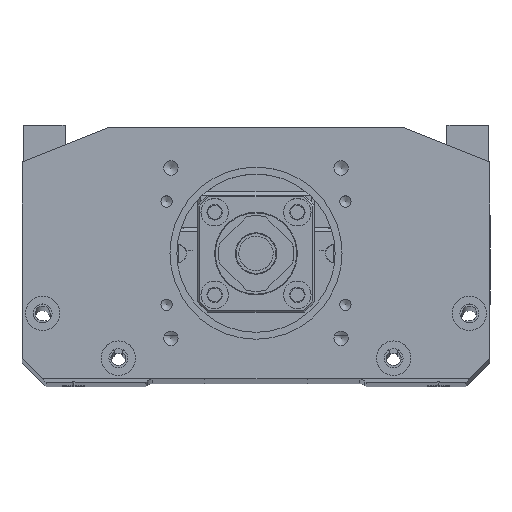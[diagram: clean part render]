
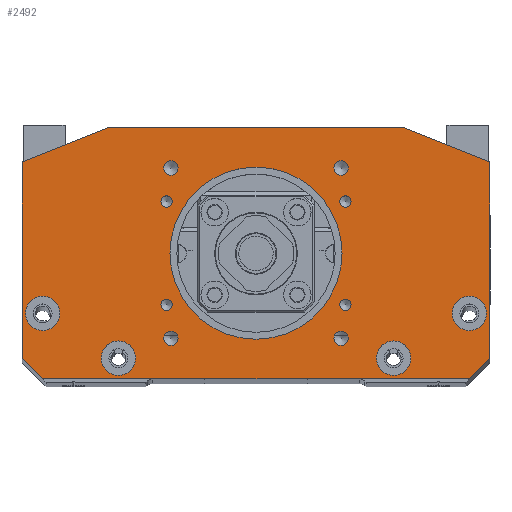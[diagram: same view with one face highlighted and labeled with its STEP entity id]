
A CAD part, top view. The second image highlights one B-rep face of the part: STEP entity #2492.
In plain terms, the highlighted planar face has unit normal (0, 0, 1).
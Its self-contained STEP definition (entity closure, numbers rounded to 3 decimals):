
#422=PLANE('',#15078);
#867=FACE_BOUND('',#4331,.T.);
#868=FACE_BOUND('',#4332,.T.);
#869=FACE_BOUND('',#4333,.T.);
#870=FACE_BOUND('',#4334,.T.);
#871=FACE_BOUND('',#4335,.T.);
#872=FACE_BOUND('',#4336,.T.);
#873=FACE_BOUND('',#4337,.T.);
#874=FACE_BOUND('',#4338,.T.);
#875=FACE_BOUND('',#4339,.T.);
#876=FACE_BOUND('',#4340,.T.);
#877=FACE_BOUND('',#4341,.T.);
#878=FACE_BOUND('',#4342,.T.);
#879=FACE_BOUND('',#4343,.T.);
#880=FACE_BOUND('',#4344,.T.);
#1786=CIRCLE('',#15065,1.65);
#1787=CIRCLE('',#15066,1.65);
#1788=CIRCLE('',#15067,1.65);
#1789=CIRCLE('',#15068,1.65);
#1790=CIRCLE('',#15069,2.1);
#1791=CIRCLE('',#15070,2.1);
#1792=CIRCLE('',#15071,2.1);
#1793=CIRCLE('',#15072,2.1);
#1794=CIRCLE('',#15073,25.);
#1795=CIRCLE('',#15074,5.);
#1796=CIRCLE('',#15075,5.);
#1797=CIRCLE('',#15076,5.);
#1798=CIRCLE('',#15077,5.);
#2492=ADVANCED_FACE('9',(#867,#868,#869,#870,#871,#872,#873,#874,#875,#876,
#877,#878,#879,#880),#422,.T.);
#4331=EDGE_LOOP('',(#7149));
#4332=EDGE_LOOP('',(#7150));
#4333=EDGE_LOOP('',(#7151));
#4334=EDGE_LOOP('',(#7152));
#4335=EDGE_LOOP('',(#7153));
#4336=EDGE_LOOP('',(#7154));
#4337=EDGE_LOOP('',(#7155));
#4338=EDGE_LOOP('',(#7156));
#4339=EDGE_LOOP('',(#7157));
#4340=EDGE_LOOP('',(#7158));
#4341=EDGE_LOOP('',(#7159));
#4342=EDGE_LOOP('',(#7160));
#4343=EDGE_LOOP('',(#7161));
#4344=EDGE_LOOP('',(#7162,#7163,#7164,#7165,#7166,#7167,#7168,#7169));
#7149=ORIENTED_EDGE('',*,*,#11610,.F.);
#7150=ORIENTED_EDGE('',*,*,#11611,.F.);
#7151=ORIENTED_EDGE('',*,*,#11612,.F.);
#7152=ORIENTED_EDGE('',*,*,#11613,.F.);
#7153=ORIENTED_EDGE('',*,*,#11614,.F.);
#7154=ORIENTED_EDGE('',*,*,#11615,.F.);
#7155=ORIENTED_EDGE('',*,*,#11616,.F.);
#7156=ORIENTED_EDGE('',*,*,#11617,.F.);
#7157=ORIENTED_EDGE('',*,*,#11618,.F.);
#7158=ORIENTED_EDGE('',*,*,#11619,.F.);
#7159=ORIENTED_EDGE('',*,*,#11620,.F.);
#7160=ORIENTED_EDGE('',*,*,#11621,.F.);
#7161=ORIENTED_EDGE('',*,*,#11622,.F.);
#7162=ORIENTED_EDGE('',*,*,#10731,.F.);
#7163=ORIENTED_EDGE('',*,*,#11580,.T.);
#7164=ORIENTED_EDGE('',*,*,#11623,.F.);
#7165=ORIENTED_EDGE('',*,*,#11583,.T.);
#7166=ORIENTED_EDGE('',*,*,#10639,.F.);
#7167=ORIENTED_EDGE('',*,*,#10691,.T.);
#7168=ORIENTED_EDGE('',*,*,#10706,.F.);
#7169=ORIENTED_EDGE('',*,*,#10720,.T.);
#9217=VERTEX_POINT('',#20807);
#9218=VERTEX_POINT('',#20809);
#9256=VERTEX_POINT('',#20907);
#9266=VERTEX_POINT('',#20935);
#9274=VERTEX_POINT('',#20960);
#9283=VERTEX_POINT('',#20982);
#9819=VERTEX_POINT('',#25187);
#9821=VERTEX_POINT('',#25193);
#9839=VERTEX_POINT('',#25250);
#9840=VERTEX_POINT('',#25252);
#9841=VERTEX_POINT('',#25254);
#9842=VERTEX_POINT('',#25256);
#9843=VERTEX_POINT('',#25258);
#9844=VERTEX_POINT('',#25260);
#9845=VERTEX_POINT('',#25262);
#9846=VERTEX_POINT('',#25264);
#9847=VERTEX_POINT('',#25266);
#9848=VERTEX_POINT('',#25268);
#9849=VERTEX_POINT('',#25270);
#9850=VERTEX_POINT('',#25272);
#9851=VERTEX_POINT('',#25274);
#10639=EDGE_CURVE('',#9217,#9218,#12381,.T.);
#10691=EDGE_CURVE('',#9217,#9256,#12423,.T.);
#10706=EDGE_CURVE('',#9266,#9256,#12436,.T.);
#10720=EDGE_CURVE('',#9266,#9274,#12448,.T.);
#10731=EDGE_CURVE('',#9283,#9274,#12457,.T.);
#11580=EDGE_CURVE('',#9283,#9819,#12890,.T.);
#11583=EDGE_CURVE('',#9821,#9218,#12893,.T.);
#11610=EDGE_CURVE('',#9839,#9839,#1786,.T.);
#11611=EDGE_CURVE('',#9840,#9840,#1787,.T.);
#11612=EDGE_CURVE('',#9841,#9841,#1788,.T.);
#11613=EDGE_CURVE('',#9842,#9842,#1789,.T.);
#11614=EDGE_CURVE('',#9843,#9843,#1790,.T.);
#11615=EDGE_CURVE('',#9844,#9844,#1791,.T.);
#11616=EDGE_CURVE('',#9845,#9845,#1792,.T.);
#11617=EDGE_CURVE('',#9846,#9846,#1793,.T.);
#11618=EDGE_CURVE('',#9847,#9847,#1794,.T.);
#11619=EDGE_CURVE('',#9848,#9848,#1795,.T.);
#11620=EDGE_CURVE('',#9849,#9849,#1796,.T.);
#11621=EDGE_CURVE('',#9850,#9850,#1797,.T.);
#11622=EDGE_CURVE('',#9851,#9851,#1798,.T.);
#11623=EDGE_CURVE('',#9821,#9819,#12907,.T.);
#12381=LINE('',#20808,#13360);
#12423=LINE('',#20908,#13402);
#12436=LINE('',#20936,#13415);
#12448=LINE('',#20961,#13427);
#12457=LINE('',#20983,#13436);
#12890=LINE('',#25186,#13869);
#12893=LINE('',#25192,#13872);
#12907=LINE('',#25275,#13886);
#13360=VECTOR('',#16218,1.);
#13402=VECTOR('',#16298,1.);
#13415=VECTOR('',#16321,1.);
#13427=VECTOR('',#16343,1.);
#13436=VECTOR('',#16360,1.);
#13869=VECTOR('',#18143,1.);
#13872=VECTOR('',#18148,1.);
#13886=VECTOR('',#18238,1.);
#15065=AXIS2_PLACEMENT_3D('',#25249,#18212,#18213);
#15066=AXIS2_PLACEMENT_3D('',#25251,#18214,#18215);
#15067=AXIS2_PLACEMENT_3D('',#25253,#18216,#18217);
#15068=AXIS2_PLACEMENT_3D('',#25255,#18218,#18219);
#15069=AXIS2_PLACEMENT_3D('',#25257,#18220,#18221);
#15070=AXIS2_PLACEMENT_3D('',#25259,#18222,#18223);
#15071=AXIS2_PLACEMENT_3D('',#25261,#18224,#18225);
#15072=AXIS2_PLACEMENT_3D('',#25263,#18226,#18227);
#15073=AXIS2_PLACEMENT_3D('',#25265,#18228,#18229);
#15074=AXIS2_PLACEMENT_3D('',#25267,#18230,#18231);
#15075=AXIS2_PLACEMENT_3D('',#25269,#18232,#18233);
#15076=AXIS2_PLACEMENT_3D('',#25271,#18234,#18235);
#15077=AXIS2_PLACEMENT_3D('',#25273,#18236,#18237);
#15078=AXIS2_PLACEMENT_3D('',#25276,#18239,#18240);
#16218=DIRECTION('',(0.,1.,0.));
#16298=DIRECTION('',(0.707,-0.707,0.));
#16321=DIRECTION('',(-1.,0.,0.));
#16343=DIRECTION('',(0.707,0.707,0.));
#16360=DIRECTION('',(0.,-1.,0.));
#18143=DIRECTION('',(-0.928,0.371,0.));
#18148=DIRECTION('',(-0.928,-0.371,0.));
#18212=DIRECTION('',(0.,0.,1.));
#18213=DIRECTION('',(1.,0.,0.));
#18214=DIRECTION('',(0.,0.,1.));
#18215=DIRECTION('',(1.,0.,0.));
#18216=DIRECTION('',(0.,0.,1.));
#18217=DIRECTION('',(1.,0.,0.));
#18218=DIRECTION('',(0.,0.,1.));
#18219=DIRECTION('',(1.,0.,0.));
#18220=DIRECTION('',(0.,0.,1.));
#18221=DIRECTION('',(1.,0.,0.));
#18222=DIRECTION('',(0.,0.,1.));
#18223=DIRECTION('',(1.,0.,0.));
#18224=DIRECTION('',(0.,0.,1.));
#18225=DIRECTION('',(1.,0.,0.));
#18226=DIRECTION('',(0.,0.,1.));
#18227=DIRECTION('',(1.,0.,0.));
#18228=DIRECTION('',(0.,0.,1.));
#18229=DIRECTION('',(1.,0.,0.));
#18230=DIRECTION('',(0.,0.,1.));
#18231=DIRECTION('',(1.,0.,0.));
#18232=DIRECTION('',(0.,0.,1.));
#18233=DIRECTION('',(1.,0.,0.));
#18234=DIRECTION('',(0.,0.,1.));
#18235=DIRECTION('',(1.,0.,0.));
#18236=DIRECTION('',(0.,0.,1.));
#18237=DIRECTION('',(1.,0.,0.));
#18238=DIRECTION('',(1.,0.,0.));
#18239=DIRECTION('',(0.,0.,1.));
#18240=DIRECTION('',(1.,0.,0.));
#20807=CARTESIAN_POINT('',(-68.,6.,180.));
#20808=CARTESIAN_POINT('',(-68.,0.,180.));
#20809=CARTESIAN_POINT('',(-68.,63.,180.));
#20907=CARTESIAN_POINT('',(-62.,0.,180.));
#20908=CARTESIAN_POINT('',(-49.25,-12.75,180.));
#20935=CARTESIAN_POINT('',(62.,0.,180.));
#20936=CARTESIAN_POINT('',(68.,0.,180.));
#20960=CARTESIAN_POINT('',(68.,6.,180.));
#20961=CARTESIAN_POINT('',(49.25,-12.75,180.));
#20982=CARTESIAN_POINT('',(68.,63.,180.));
#20983=CARTESIAN_POINT('',(68.,0.,180.));
#25186=CARTESIAN_POINT('',(18.517,82.793,180.));
#25187=CARTESIAN_POINT('',(43.,73.,180.));
#25192=CARTESIAN_POINT('',(-18.517,82.793,180.));
#25193=CARTESIAN_POINT('',(-43.,73.,180.));
#25249=CARTESIAN_POINT('',(25.981,51.5,180.));
#25250=CARTESIAN_POINT('',(27.631,51.5,180.));
#25251=CARTESIAN_POINT('',(25.981,21.5,180.));
#25252=CARTESIAN_POINT('',(27.631,21.5,180.));
#25253=CARTESIAN_POINT('',(-25.981,21.5,180.));
#25254=CARTESIAN_POINT('',(-24.331,21.5,180.));
#25255=CARTESIAN_POINT('',(-25.981,51.5,180.));
#25256=CARTESIAN_POINT('',(-24.331,51.5,180.));
#25257=CARTESIAN_POINT('',(-24.749,61.249,180.));
#25258=CARTESIAN_POINT('',(-22.649,61.249,180.));
#25259=CARTESIAN_POINT('',(24.749,61.249,180.));
#25260=CARTESIAN_POINT('',(26.849,61.249,180.));
#25261=CARTESIAN_POINT('',(24.749,11.751,180.));
#25262=CARTESIAN_POINT('',(26.849,11.751,180.));
#25263=CARTESIAN_POINT('',(-24.749,11.751,180.));
#25264=CARTESIAN_POINT('',(-22.649,11.751,180.));
#25265=CARTESIAN_POINT('',(0.,36.5,180.));
#25266=CARTESIAN_POINT('',(25.,36.5,180.));
#25267=CARTESIAN_POINT('',(-62.,19.,180.));
#25268=CARTESIAN_POINT('',(-57.,19.,180.));
#25269=CARTESIAN_POINT('',(62.,19.,180.));
#25270=CARTESIAN_POINT('',(67.,19.,180.));
#25271=CARTESIAN_POINT('',(-40.,6.,180.));
#25272=CARTESIAN_POINT('',(-35.,6.,180.));
#25273=CARTESIAN_POINT('',(40.,6.,180.));
#25274=CARTESIAN_POINT('',(45.,6.,180.));
#25275=CARTESIAN_POINT('',(68.,73.,180.));
#25276=CARTESIAN_POINT('',(0.,36.5,180.));
